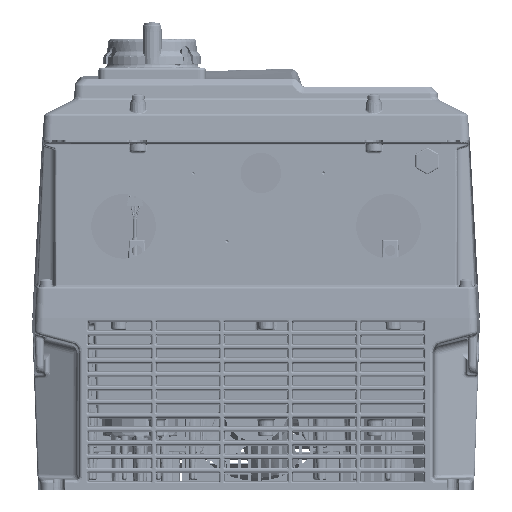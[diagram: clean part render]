
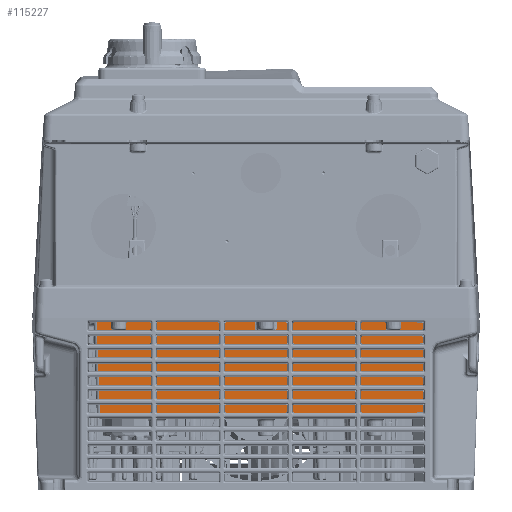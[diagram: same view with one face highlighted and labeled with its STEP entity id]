
A CAD part, front view. The second image highlights one B-rep face of the part: STEP entity #115227.
In plain terms, the highlighted planar face has unit normal (0, -0.999, -0.035).
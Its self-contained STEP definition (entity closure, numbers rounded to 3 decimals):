
#29059=DIRECTION('',(1.,0.,0.));
#29060=VECTOR('',#29059,7.463);
#29061=CARTESIAN_POINT('',(2.269,-271.353,
-12.93));
#29062=LINE('',#29061,#29060);
#29063=CARTESIAN_POINT('',(12.732,-271.454,
-10.035));
#29064=CARTESIAN_POINT('',(12.762,-271.484,
-9.18));
#29065=CARTESIAN_POINT('',(12.823,-271.545,
-7.439));
#29066=CARTESIAN_POINT('',(12.916,-271.639,
-4.748));
#29067=CARTESIAN_POINT('',(12.979,-271.704,
-2.88));
#29068=CARTESIAN_POINT('',(13.012,-271.737,
-1.93));
#29070=DIRECTION('',(-1.,0.,0.));
#29071=VECTOR('',#29070,97.727);
#29072=CARTESIAN_POINT('',(110.739,-271.737,
-1.93));
#29073=LINE('',#29072,#29071);
#29074=DIRECTION('',(-0.035,0.035,-0.999));
#29075=VECTOR('',#29074,62.215);
#29076=CARTESIAN_POINT('',(110.739,-271.737,
-1.93));
#29077=LINE('',#29076,#29075);
#29078=DIRECTION('',(-1.,0.,0.));
#29079=VECTOR('',#29078,205.137);
#29080=CARTESIAN_POINT('',(108.569,-269.567,
-64.07));
#29081=LINE('',#29080,#29079);
#29082=DIRECTION('',(0.035,0.035,-0.999));
#29083=VECTOR('',#29082,62.215);
#29084=CARTESIAN_POINT('',(-98.739,-271.737,
-1.93));
#29085=LINE('',#29084,#29083);
#29086=DIRECTION('',(-1.,0.,0.));
#29087=VECTOR('',#29086,97.727);
#29088=CARTESIAN_POINT('',(-1.012,-271.737,
-1.93));
#29089=LINE('',#29088,#29087);
#29090=CARTESIAN_POINT('',(-1.012,-271.737,
-1.93));
#29091=CARTESIAN_POINT('',(-0.983,-271.708,
-2.769));
#29092=CARTESIAN_POINT('',(-0.925,-271.648,
-4.487));
#29093=CARTESIAN_POINT('',(-0.832,-271.554,
-7.184));
#29094=CARTESIAN_POINT('',(-0.766,-271.488,
-9.07));
#29095=CARTESIAN_POINT('',(-0.732,-271.454,
-10.035));
#59606=CARTESIAN_POINT('',(12.732,-271.454,
-10.035));
#59607=CARTESIAN_POINT('',(12.721,-271.443,
-10.351));
#59608=CARTESIAN_POINT('',(12.605,-271.422,
-10.948));
#59609=CARTESIAN_POINT('',(12.163,-271.394,
-11.772));
#59610=CARTESIAN_POINT('',(11.487,-271.371,
-12.423));
#59611=CARTESIAN_POINT('',(10.646,-271.357,
-12.835));
#59612=CARTESIAN_POINT('',(10.047,-271.353,
-12.93));
#59613=CARTESIAN_POINT('',(9.731,-271.353,
-12.93));
#59615=CARTESIAN_POINT('',(2.269,-271.353,
-12.93));
#59616=CARTESIAN_POINT('',(1.953,-271.353,
-12.93));
#59617=CARTESIAN_POINT('',(1.354,-271.357,
-12.835));
#59618=CARTESIAN_POINT('',(0.513,-271.371,
-12.423));
#59619=CARTESIAN_POINT('',(-0.163,-271.394,
-11.772));
#59620=CARTESIAN_POINT('',(-0.605,-271.422,
-10.948));
#59621=CARTESIAN_POINT('',(-0.721,-271.443,
-10.351));
#59622=CARTESIAN_POINT('',(-0.732,-271.454,
-10.035));
#87088=CARTESIAN_POINT('',(-1.012,-271.737,
-1.93));
#87089=CARTESIAN_POINT('',(-98.739,-271.737,
-1.93));
#87090=VERTEX_POINT('',#87088);
#87091=VERTEX_POINT('',#87089);
#87100=CARTESIAN_POINT('',(110.739,-271.737,
-1.93));
#87101=CARTESIAN_POINT('',(13.012,-271.737,
-1.93));
#87102=VERTEX_POINT('',#87100);
#87103=VERTEX_POINT('',#87101);
#87164=CARTESIAN_POINT('',(9.731,-271.353,
-12.93));
#87166=VERTEX_POINT('',#87164);
#87168=CARTESIAN_POINT('',(2.269,-271.353,
-12.93));
#87170=VERTEX_POINT('',#87168);
#87171=VERTEX_POINT('',#29095);
#87172=VERTEX_POINT('',#29063);
#87237=CARTESIAN_POINT('',(108.569,-269.567,
-64.07));
#87238=CARTESIAN_POINT('',(-96.569,-269.567,
-64.07));
#87239=VERTEX_POINT('',#87237);
#87240=VERTEX_POINT('',#87238);
#115200=CARTESIAN_POINT('',(-108.082,-269.5,-66.));
#115201=DIRECTION('',(0.,-0.999,-0.035));
#115202=DIRECTION('',(-1.,0.,0.));
#115203=AXIS2_PLACEMENT_3D('',#115200,#115201,#115202);
#115204=PLANE('',#115203);
#115206=ORIENTED_EDGE('',*,*,#115205,.T.);
#115208=ORIENTED_EDGE('',*,*,#115207,.F.);
#115210=ORIENTED_EDGE('',*,*,#115209,.T.);
#115212=ORIENTED_EDGE('',*,*,#115211,.F.);
#115214=ORIENTED_EDGE('',*,*,#115213,.T.);
#115216=ORIENTED_EDGE('',*,*,#115215,.T.);
#115218=ORIENTED_EDGE('',*,*,#115217,.F.);
#115220=ORIENTED_EDGE('',*,*,#115219,.F.);
#115222=ORIENTED_EDGE('',*,*,#115221,.T.);
#115224=ORIENTED_EDGE('',*,*,#115223,.F.);
#115225=EDGE_LOOP('',(#115206,#115208,#115210,#115212,#115214,#115216,#115218,
#115220,#115222,#115224));
#115226=FACE_OUTER_BOUND('',#115225,.F.);
#115227=ADVANCED_FACE('',(#115226),#115204,.T.);
#29069=B_SPLINE_CURVE_WITH_KNOTS('',3,(#29063,#29064,#29065,#29066,#29067,
#29068),.UNSPECIFIED.,.F.,.F.,(4,1,1,4),(0.,0.333,
0.667,1.),.UNSPECIFIED.);
#29096=B_SPLINE_CURVE_WITH_KNOTS('',3,(#29090,#29091,#29092,#29093,#29094,
#29095),.UNSPECIFIED.,.F.,.F.,(4,1,1,4),(0.,0.333,
0.667,1.),.UNSPECIFIED.);
#59614=B_SPLINE_CURVE_WITH_KNOTS('',3,(#59606,#59607,#59608,#59609,#59610,
#59611,#59612,#59613),.UNSPECIFIED.,.F.,.F.,(4,1,1,1,1,4),(0.,0.2,0.4,
0.6,0.8,1.),.UNSPECIFIED.);
#59623=B_SPLINE_CURVE_WITH_KNOTS('',3,(#59615,#59616,#59617,#59618,#59619,
#59620,#59621,#59622),.UNSPECIFIED.,.F.,.F.,(4,1,1,1,1,4),(0.,0.2,0.4,
0.6,0.8,1.),.UNSPECIFIED.);
#115205=EDGE_CURVE('',#87170,#87166,#29062,.T.);
#115207=EDGE_CURVE('',#87172,#87166,#59614,.T.);
#115209=EDGE_CURVE('',#87172,#87103,#29069,.T.);
#115211=EDGE_CURVE('',#87102,#87103,#29073,.T.);
#115213=EDGE_CURVE('',#87102,#87239,#29077,.T.);
#115215=EDGE_CURVE('',#87239,#87240,#29081,.T.);
#115217=EDGE_CURVE('',#87091,#87240,#29085,.T.);
#115219=EDGE_CURVE('',#87090,#87091,#29089,.T.);
#115221=EDGE_CURVE('',#87090,#87171,#29096,.T.);
#115223=EDGE_CURVE('',#87170,#87171,#59623,.T.);
